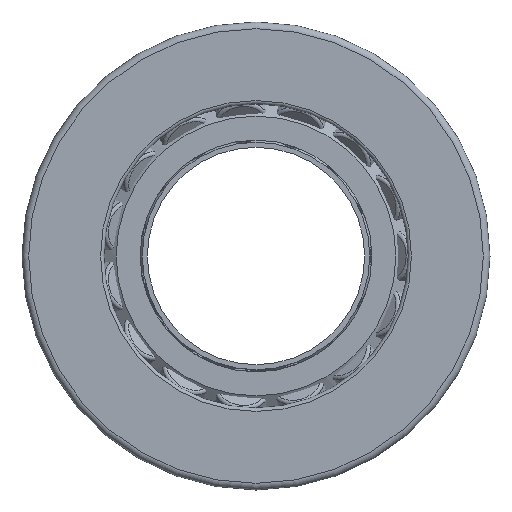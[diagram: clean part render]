
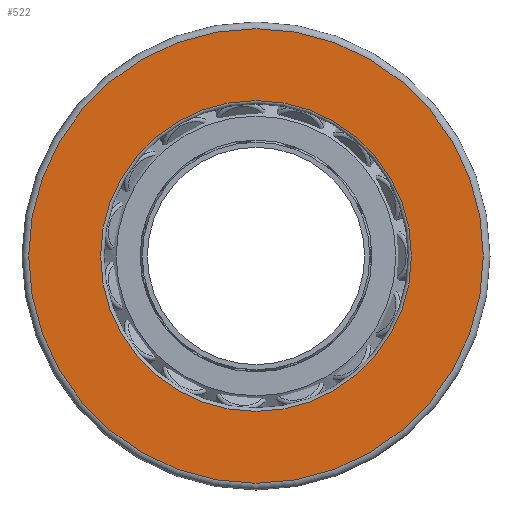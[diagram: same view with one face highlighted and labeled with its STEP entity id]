
A CAD part, front view. The second image highlights one B-rep face of the part: STEP entity #522.
In plain terms, the highlighted planar face has unit normal (0, -1, 0).
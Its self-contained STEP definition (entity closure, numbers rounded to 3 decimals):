
#111=PLANE('',#572);
#135=FACE_BOUND('',#210,.T.);
#167=FACE_OUTER_BOUND('',#209,.T.);
#209=EDGE_LOOP('',(#419));
#210=EDGE_LOOP('',(#420));
#276=CIRCLE('',#570,46.5);
#278=CIRCLE('',#573,68.);
#321=VERTEX_POINT('',#881);
#323=VERTEX_POINT('',#886);
#366=EDGE_CURVE('',#321,#321,#276,.T.);
#368=EDGE_CURVE('',#323,#323,#278,.T.);
#419=ORIENTED_EDGE('',*,*,#368,.F.);
#420=ORIENTED_EDGE('',*,*,#366,.F.);
#522=ADVANCED_FACE('',(#167,#135),#111,.T.);
#570=AXIS2_PLACEMENT_3D('',#882,#682,#683);
#572=AXIS2_PLACEMENT_3D('',#885,#686,#687);
#573=AXIS2_PLACEMENT_3D('',#887,#688,#689);
#682=DIRECTION('center_axis',(0.,-1.,0.));
#683=DIRECTION('ref_axis',(-1.,0.,0.));
#686=DIRECTION('center_axis',(0.,-1.,0.));
#687=DIRECTION('ref_axis',(0.,0.,-1.));
#688=DIRECTION('center_axis',(0.,1.,0.));
#689=DIRECTION('ref_axis',(-1.,0.,0.));
#881=CARTESIAN_POINT('',(46.5,-22.5,0.));
#882=CARTESIAN_POINT('Origin',(0.,-22.5,0.));
#885=CARTESIAN_POINT('Origin',(45.5,-22.5,0.));
#886=CARTESIAN_POINT('',(68.,-22.5,0.));
#887=CARTESIAN_POINT('Origin',(0.,-22.5,0.));
